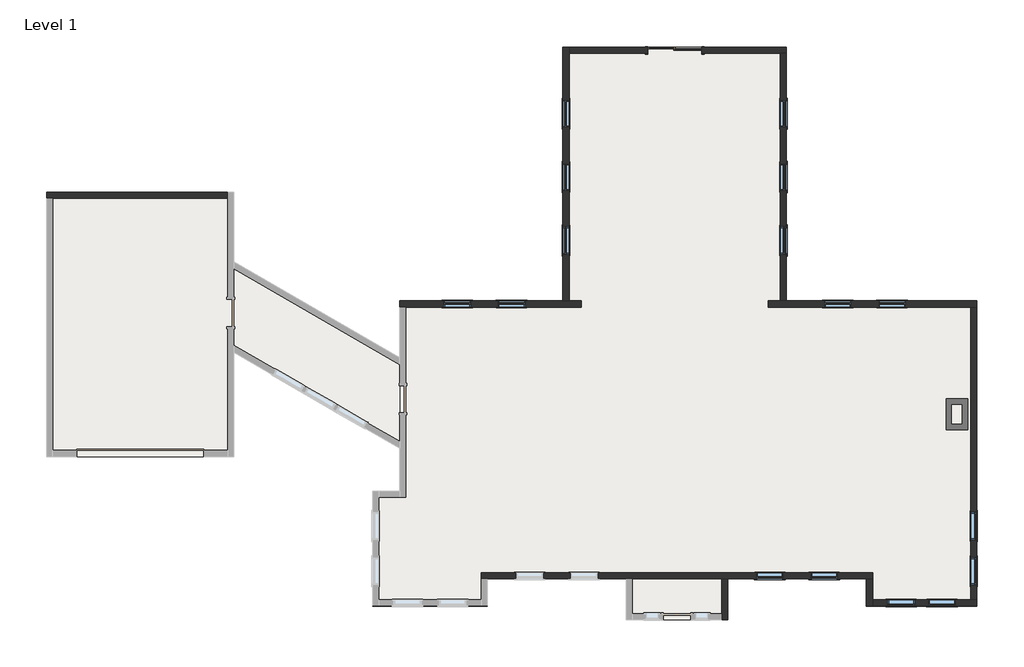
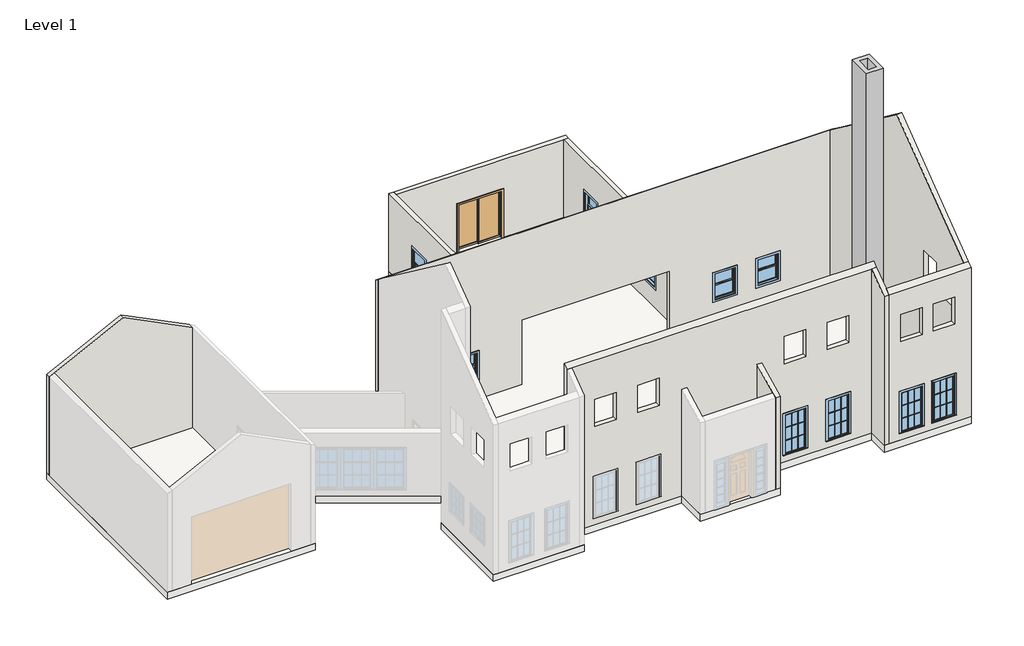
# One storey, part 2 of 2: 16 windows, 10 walls, 3 slabs, 1 door, 1 proxy.
"""IFC4 building model written with IfcOpenShell, lengths in millimetres."""

from ifc_helpers import new_model, si_unit, frame, origin, place, context, project, spatial, polyline, outline, extrude, faceted_brep, transform, mapped, element, save
from components import chimney_chimney_af68f421, door_f8fd2036, casement_3x3_with_trim_8b323df3, casement_3x3_with_trim_29c06734, double_hung_with_trim_31198920

model = new_model("IFC4")

# Units and contexts
model_context = context("Model", 3, world=origin())
ifc_project = project(units=[si_unit("LENGTHUNIT", "METRE", prefix="MILLI")], contexts=[model_context])

# Site, building, storey
site = spatial("IfcSite", under=ifc_project)
building = spatial("IfcBuilding", under=site)
storey = spatial("IfcBuildingStorey", under=building, Name="Level 1", Elevation=0.0)

# Proxy
placement = place(None, origin())
chimney_chimney_shape = chimney_chimney_af68f421(model_context)
element("IfcBuildingElementProxy", 1, Name="chimney : chimney", ObjectType="chimney : chimney", at=placement, inside=storey, context=model_context, shape_type="MappedRepresentation", body=[
    mapped(chimney_chimney_shape, transform((0.0, 0.0, 0.0), x_axis=(1.0, 0.0, 0.0), y_axis=(0.0, 1.0, 0.0), z_axis=(0.0, 0.0, 1.0))),
])

# Door
door_shape = door_f8fd2036(model_context)
element("IfcDoor", 2, ObjectType="Sliding-2 panel : 72\" x 84\"", at=placement, inside=storey, context=model_context, shape_type="MappedRepresentation", body=[
    mapped(door_shape, transform((-167241.7354666, 24535.2757393, 0.0), x_axis=(1.0, 0.0, 0.0), y_axis=(0.0, 1.0, 0.0), z_axis=(0.0, 0.0, 1.0))),
])

# Slabs
element("IfcSlab", 3, ObjectType="Generic - 12\"", at=placement, inside=storey, context=model_context, shape_type="SweptSolid", body=[
    extrude(outline(polyline([(-188374.5354666, 19887.0757393), (-182075.3354666, 19887.0757393), (-182075.3354666, 10997.0757393), (-188374.5354666, 10997.0757393), (-188374.5354666, 19887.0757393)])), frame((0.0, 0.0, -304.8), z_axis=(0.0, 0.0, 1.0), x_axis=(1.0, 0.0, 0.0)), (0.0, 0.0, 1.0), 304.8),
])
element("IfcSlab", 4, ObjectType="Generic - 12\"", at=placement, inside=storey, context=model_context, shape_type="SweptSolid", body=[
    extrude(outline(polyline([(-182075.3354666, 17548.8854056), (-176487.3354666, 14322.6521013), (-176487.3354666, 11272.3951592), (-182075.3354666, 14498.6284634), (-182075.3354666, 17548.8854056)])), frame((0.0, 0.0, -304.8), z_axis=(0.0, 0.0, 1.0), x_axis=(1.0, 0.0, 0.0)), (0.0, 0.0, 1.0), 304.8),
])
element("IfcSlab", 5, ObjectType="Generic - 12\"", at=placement, inside=storey, context=model_context, shape_type="SweptSolid", body=[
    extrude(outline(polyline([(-171000.9354666, 16229.4757393), (-171000.9354666, 24763.8757393), (-163482.5354666, 24763.8757393), (-163482.5354666, 16229.4757393), (-157081.7354666, 16229.4757393), (-157081.7354666, 5967.8757393), (-160790.1354666, 5967.8757393), (-160790.1354666, 6882.2757393), (-165463.7354666, 6882.2757393), (-165463.7354666, 5510.6757393), (-168867.3354666, 5510.6757393), (-168867.3354666, 6882.2757393), (-173540.9354666, 6882.2757393), (-173540.9354666, 5967.8757393), (-177401.7354666, 5967.8757393), (-177401.7354666, 9828.6757393), (-176487.3354666, 9828.6757393), (-176487.3354666, 16229.4757393), (-171000.9354666, 16229.4757393)])), frame((0.0, 0.0, -304.8), z_axis=(0.0, 0.0, 1.0), x_axis=(1.0, 0.0, 0.0)), (0.0, 0.0, 1.0), 304.8),
])

# Walls
element("IfcWall", 6, ObjectType="Generic - 8\"", at=placement, inside=storey, context=model_context, shape_type="Brep", body=[
    faceted_brep([(-176487.3354666, 16026.2757393, 0.0), (-176284.1354666, 16026.2757393, 0.0), (-170391.3354666, 16026.2757393, 0.0), (-170391.3354666, 16026.2757393, 2895.6), (-164092.1354666, 16026.2757393, 2895.6), (-164092.1354666, 16026.2757393, 0.0), (-157284.9354666, 16026.2757393, 0.0), (-157081.7354666, 16026.2757393, 0.0), (-157081.7354666, 16026.2757393, 6858.0), (-157284.9354666, 16026.2757393, 6858.0), (-176284.1354666, 16026.2757393, 6858.0), (-176487.3354666, 16026.2757393, 6858.0), (-159469.3354666, 16026.2757393, 2133.6), (-159469.3354666, 16026.2757393, 914.4), (-160383.7354666, 16026.2757393, 914.4), (-160383.7354666, 16026.2757393, 2133.6), (-161298.1354666, 16026.2757393, 2133.6), (-161298.1354666, 16026.2757393, 914.4), (-162212.5354666, 16026.2757393, 914.4), (-162212.5354666, 16026.2757393, 2133.6), (-172270.9354666, 16026.2757393, 2133.6), (-172270.9354666, 16026.2757393, 914.4), (-173185.3354666, 16026.2757393, 914.4), (-173185.3354666, 16026.2757393, 2133.6), (-174099.7354666, 16026.2757393, 2133.6), (-174099.7354666, 16026.2757393, 914.4), (-175014.1354666, 16026.2757393, 914.4), (-175014.1354666, 16026.2757393, 2133.6), (-176487.3354666, 16229.4757393, 0.0), (-176487.3354666, 16229.4757393, 6705.6), (-157081.7354666, 16229.4757393, 6705.6), (-157081.7354666, 16229.4757393, 0.0), (-163482.5354666, 16229.4757393, 0.0), (-163685.7354666, 16229.4757393, 0.0), (-164092.1354666, 16229.4757393, 0.0), (-164092.1354666, 16229.4757393, 2895.6), (-170391.3354666, 16229.4757393, 2895.6), (-170391.3354666, 16229.4757393, 0.0), (-170797.7354666, 16229.4757393, 0.0), (-171000.9354666, 16229.4757393, 0.0), (-159469.3354666, 16229.4757393, 2133.6), (-160383.7354666, 16229.4757393, 2133.6), (-160383.7354666, 16229.4757393, 914.4), (-159469.3354666, 16229.4757393, 914.4), (-161298.1354666, 16229.4757393, 2133.6), (-162212.5354666, 16229.4757393, 2133.6), (-162212.5354666, 16229.4757393, 914.4), (-161298.1354666, 16229.4757393, 914.4), (-172270.9354666, 16229.4757393, 2133.6), (-173185.3354666, 16229.4757393, 2133.6), (-173185.3354666, 16229.4757393, 914.4), (-172270.9354666, 16229.4757393, 914.4), (-174099.7354666, 16229.4757393, 2133.6), (-175014.1354666, 16229.4757393, 2133.6), (-175014.1354666, 16229.4757393, 914.4), (-174099.7354666, 16229.4757393, 914.4)], [[[0, 1, 2, 3, 4, 5, 6, 7, 8, 9, 10, 11], [12, 13, 14, 15], [16, 17, 18, 19], [20, 21, 22, 23], [24, 25, 26, 27]], [[28, 29, 30, 31, 32, 33, 34, 35, 36, 37, 38, 39], [40, 41, 42, 43], [44, 45, 46, 47], [48, 49, 50, 51], [52, 53, 54, 55]], [[2, 1, 0, 28, 39, 38, 37]], [[0, 11, 29, 28]], [[3, 2, 37, 36]], [[4, 3, 36, 35]], [[5, 4, 35, 34]], [[7, 6, 5, 34, 33, 32, 31]], [[8, 7, 31, 30]], [[11, 10, 9, 8, 30, 29]], [[13, 12, 40, 43]], [[14, 13, 43, 42]], [[15, 14, 42, 41]], [[12, 15, 41, 40]], [[17, 16, 44, 47]], [[18, 17, 47, 46]], [[19, 18, 46, 45]], [[16, 19, 45, 44]], [[21, 20, 48, 51]], [[22, 21, 51, 50]], [[23, 22, 50, 49]], [[20, 23, 49, 48]], [[25, 24, 52, 55]], [[26, 25, 55, 54]], [[27, 26, 54, 53]], [[24, 27, 53, 52]]]),
])
element("IfcWall", 7, ObjectType="Generic - 8\"", at=placement, inside=storey, context=model_context, shape_type="Brep", body=[
    faceted_brep([(-160586.9354666, 7085.4757393, 0.0), (-173744.1354666, 7085.4757393, 0.0), (-173744.1354666, 7085.4757393, 7543.8), (-160586.9354666, 7085.4757393, 7543.8), (-162669.7354666, 7085.4757393, 5638.8), (-162669.7354666, 7085.4757393, 4419.6), (-161755.3354666, 7085.4757393, 4419.6), (-161755.3354666, 7085.4757393, 5638.8), (-164498.5354666, 7085.4757393, 5638.8), (-164498.5354666, 7085.4757393, 4419.6), (-163584.1354666, 7085.4757393, 4419.6), (-163584.1354666, 7085.4757393, 5638.8), (-170746.9354666, 7085.4757393, 5638.8), (-170746.9354666, 7085.4757393, 4419.6), (-169832.5354666, 7085.4757393, 4419.6), (-169832.5354666, 7085.4757393, 5638.8), (-172575.7354666, 7085.4757393, 5638.8), (-172575.7354666, 7085.4757393, 4419.6), (-171661.3354666, 7085.4757393, 4419.6), (-171661.3354666, 7085.4757393, 5638.8), (-162669.7354666, 7085.4757393, 2133.6), (-162669.7354666, 7085.4757393, 304.8), (-161755.3354666, 7085.4757393, 304.8), (-161755.3354666, 7085.4757393, 2133.6), (-164498.5354666, 7085.4757393, 2133.6), (-164498.5354666, 7085.4757393, 304.8), (-163584.1354666, 7085.4757393, 304.8), (-163584.1354666, 7085.4757393, 2133.6), (-170746.9354666, 7085.4757393, 2133.6), (-170746.9354666, 7085.4757393, 304.8), (-169832.5354666, 7085.4757393, 304.8), (-169832.5354666, 7085.4757393, 2133.6), (-172575.7354666, 7085.4757393, 2133.6), (-172575.7354666, 7085.4757393, 304.8), (-171661.3354666, 7085.4757393, 304.8), (-171661.3354666, 7085.4757393, 2133.6), (-160586.9354666, 6882.2757393, 0.0), (-160586.9354666, 6882.2757393, 7391.4), (-160790.1354666, 6882.2757393, 7391.4), (-173540.9354666, 6882.2757393, 7391.4), (-173744.1354666, 6882.2757393, 7391.4), (-173744.1354666, 6882.2757393, 0.0), (-173540.9354666, 6882.2757393, 0.0), (-168867.3354666, 6882.2757393, 0.0), (-168664.1354666, 6882.2757393, 0.0), (-165666.9354666, 6882.2757393, 0.0), (-165463.7354666, 6882.2757393, 0.0), (-160790.1354666, 6882.2757393, 0.0), (-162669.7354666, 6882.2757393, 5638.8), (-161755.3354666, 6882.2757393, 5638.8), (-161755.3354666, 6882.2757393, 4419.6), (-162669.7354666, 6882.2757393, 4419.6), (-164498.5354666, 6882.2757393, 5638.8), (-163584.1354666, 6882.2757393, 5638.8), (-163584.1354666, 6882.2757393, 4419.6), (-164498.5354666, 6882.2757393, 4419.6), (-170746.9354666, 6882.2757393, 5638.8), (-169832.5354666, 6882.2757393, 5638.8), (-169832.5354666, 6882.2757393, 4419.6), (-170746.9354666, 6882.2757393, 4419.6), (-172575.7354666, 6882.2757393, 5638.8), (-171661.3354666, 6882.2757393, 5638.8), (-171661.3354666, 6882.2757393, 4419.6), (-172575.7354666, 6882.2757393, 4419.6), (-162669.7354666, 6882.2757393, 2133.6), (-161755.3354666, 6882.2757393, 2133.6), (-161755.3354666, 6882.2757393, 304.8), (-162669.7354666, 6882.2757393, 304.8), (-164498.5354666, 6882.2757393, 2133.6), (-163584.1354666, 6882.2757393, 2133.6), (-163584.1354666, 6882.2757393, 304.8), (-164498.5354666, 6882.2757393, 304.8), (-170746.9354666, 6882.2757393, 2133.6), (-169832.5354666, 6882.2757393, 2133.6), (-169832.5354666, 6882.2757393, 304.8), (-170746.9354666, 6882.2757393, 304.8), (-172575.7354666, 6882.2757393, 2133.6), (-171661.3354666, 6882.2757393, 2133.6), (-171661.3354666, 6882.2757393, 304.8), (-172575.7354666, 6882.2757393, 304.8)], [[[0, 1, 2, 3], [4, 5, 6, 7], [8, 9, 10, 11], [12, 13, 14, 15], [16, 17, 18, 19], [20, 21, 22, 23], [24, 25, 26, 27], [28, 29, 30, 31], [32, 33, 34, 35]], [[36, 37, 38, 39, 40, 41, 42, 43, 44, 45, 46, 47], [48, 49, 50, 51], [52, 53, 54, 55], [56, 57, 58, 59], [60, 61, 62, 63], [64, 65, 66, 67], [68, 69, 70, 71], [72, 73, 74, 75], [76, 77, 78, 79]], [[1, 0, 36, 47, 46, 45, 44, 43, 42, 41]], [[2, 1, 41, 40]], [[0, 3, 37, 36]], [[3, 2, 40, 39, 38, 37]], [[5, 4, 48, 51]], [[6, 5, 51, 50]], [[7, 6, 50, 49]], [[4, 7, 49, 48]], [[9, 8, 52, 55]], [[10, 9, 55, 54]], [[11, 10, 54, 53]], [[8, 11, 53, 52]], [[13, 12, 56, 59]], [[14, 13, 59, 58]], [[15, 14, 58, 57]], [[12, 15, 57, 56]], [[17, 16, 60, 63]], [[18, 17, 63, 62]], [[19, 18, 62, 61]], [[16, 19, 61, 60]], [[21, 20, 64, 67]], [[22, 21, 67, 66]], [[23, 22, 66, 65]], [[20, 23, 65, 64]], [[25, 24, 68, 71]], [[26, 25, 71, 70]], [[27, 26, 70, 69]], [[24, 27, 69, 68]], [[29, 28, 72, 75]], [[30, 29, 75, 74]], [[31, 30, 74, 73]], [[28, 31, 73, 72]], [[33, 32, 76, 79]], [[34, 33, 79, 78]], [[35, 34, 78, 77]], [[32, 35, 77, 76]]]),
])
element("IfcWall", 8, ObjectType="Generic - 8\"", at=placement, inside=storey, context=model_context, shape_type="SweptSolid", body=[
    extrude(outline(polyline([(16026.2757393, 0.0), (6171.0757393, 0.0), (6171.0757393, 6858.0), (11098.6757393, 10553.7), (16026.2757393, 6858.0), (16026.2757393, 0.0)]), holes=[polyline([(8203.0757393, 2133.6), (8203.0757393, 914.4), (9117.4757393, 914.4), (9117.4757393, 2133.6), (8203.0757393, 2133.6)]), polyline([(6679.0757393, 2133.6), (6679.0757393, 914.4), (7593.4757393, 914.4), (7593.4757393, 2133.6), (6679.0757393, 2133.6)]), polyline([(8203.0757393, 5638.8), (8203.0757393, 4419.6), (9117.4757393, 4419.6), (9117.4757393, 5638.8), (8203.0757393, 5638.8)]), polyline([(6679.0757393, 5638.8), (6679.0757393, 4419.6), (7593.4757393, 4419.6), (7593.4757393, 5638.8), (6679.0757393, 5638.8)])]), frame((-157284.9354666, 0.0, 0.0), z_axis=(1.0, 0.0, 0.0), x_axis=(0.0, 1.0, 0.0)), (0.0, 0.0, 1.0), 203.2),
])
element("IfcWall", 9, ObjectType="Generic - 8\"", at=placement, inside=storey, context=model_context, shape_type="Brep", body=[
    faceted_brep([(-160790.1354666, 6882.2757393, 0.0), (-160790.1354666, 5967.8757393, 0.0), (-160790.1354666, 5967.8757393, 6705.6), (-160790.1354666, 6882.2757393, 7391.4), (-160586.9354666, 6882.2757393, 0.0), (-160586.9354666, 6882.2757393, 7391.4), (-160586.9354666, 6171.0757393, 6858.0), (-160586.9354666, 5967.8757393, 6705.6), (-160586.9354666, 5967.8757393, 0.0), (-160586.9354666, 6171.0757393, 0.0)], [[[0, 1, 2, 3]], [[4, 5, 6, 7, 8, 9]], [[1, 0, 4, 9, 8]], [[2, 1, 8, 7]], [[0, 3, 5, 4]], [[3, 2, 7, 6, 5]]]),
])
element("IfcWall", 10, ObjectType="Generic - 8\"", at=placement, inside=storey, context=model_context, shape_type="Brep", body=[
    faceted_brep([(-160586.9354666, 5967.8757393, 0.0), (-157081.7354666, 5967.8757393, 0.0), (-157081.7354666, 5967.8757393, 6705.6), (-160586.9354666, 5967.8757393, 6705.6), (-158707.3354666, 5967.8757393, 5638.8), (-157792.9354666, 5967.8757393, 5638.8), (-157792.9354666, 5967.8757393, 4419.6), (-158707.3354666, 5967.8757393, 4419.6), (-160078.9354666, 5967.8757393, 5638.8), (-159164.5354666, 5967.8757393, 5638.8), (-159164.5354666, 5967.8757393, 4419.6), (-160078.9354666, 5967.8757393, 4419.6), (-158707.3354666, 5967.8757393, 2133.6), (-157792.9354666, 5967.8757393, 2133.6), (-157792.9354666, 5967.8757393, 304.8), (-158707.3354666, 5967.8757393, 304.8), (-160078.9354666, 5967.8757393, 2133.6), (-159164.5354666, 5967.8757393, 2133.6), (-159164.5354666, 5967.8757393, 304.8), (-160078.9354666, 5967.8757393, 304.8), (-160586.9354666, 6171.0757393, 0.0), (-160586.9354666, 6171.0757393, 6858.0), (-157284.9354666, 6171.0757393, 6858.0), (-157081.7354666, 6171.0757393, 6858.0), (-157081.7354666, 6171.0757393, 0.0), (-157284.9354666, 6171.0757393, 0.0), (-158707.3354666, 6171.0757393, 5638.8), (-158707.3354666, 6171.0757393, 4419.6), (-157792.9354666, 6171.0757393, 4419.6), (-157792.9354666, 6171.0757393, 5638.8), (-160078.9354666, 6171.0757393, 5638.8), (-160078.9354666, 6171.0757393, 4419.6), (-159164.5354666, 6171.0757393, 4419.6), (-159164.5354666, 6171.0757393, 5638.8), (-158707.3354666, 6171.0757393, 2133.6), (-158707.3354666, 6171.0757393, 304.8), (-157792.9354666, 6171.0757393, 304.8), (-157792.9354666, 6171.0757393, 2133.6), (-160078.9354666, 6171.0757393, 2133.6), (-160078.9354666, 6171.0757393, 304.8), (-159164.5354666, 6171.0757393, 304.8), (-159164.5354666, 6171.0757393, 2133.6)], [[[0, 1, 2, 3], [4, 5, 6, 7], [8, 9, 10, 11], [12, 13, 14, 15], [16, 17, 18, 19]], [[20, 21, 22, 23, 24, 25], [26, 27, 28, 29], [30, 31, 32, 33], [34, 35, 36, 37], [38, 39, 40, 41]], [[1, 0, 20, 25, 24]], [[0, 3, 21, 20]], [[2, 1, 24, 23]], [[3, 2, 23, 22, 21]], [[27, 26, 4, 7]], [[28, 27, 7, 6]], [[29, 28, 6, 5]], [[26, 29, 5, 4]], [[31, 30, 8, 11]], [[32, 31, 11, 10]], [[33, 32, 10, 9]], [[30, 33, 9, 8]], [[35, 34, 12, 15]], [[36, 35, 15, 14]], [[37, 36, 14, 13]], [[34, 37, 13, 12]], [[39, 38, 16, 19]], [[40, 39, 19, 18]], [[41, 40, 18, 17]], [[38, 41, 17, 16]]]),
])
element("IfcWall", 11, ObjectType="Generic - 8\"", at=placement, inside=storey, context=model_context, shape_type="Brep", body=[
    faceted_brep([(-165666.9354666, 6882.2757393, 0.0), (-165666.9354666, 5713.8757393, 0.0), (-165666.9354666, 5510.6757393, 0.0), (-165666.9354666, 5510.6757393, 4114.8), (-165666.9354666, 5713.8757393, 4216.4), (-165666.9354666, 6882.2757393, 4800.6), (-165463.7354666, 6882.2757393, 0.0), (-165463.7354666, 6882.2757393, 4800.6), (-165463.7354666, 5510.6757393, 4114.8), (-165463.7354666, 5510.6757393, 0.0)], [[[0, 1, 2, 3, 4, 5]], [[6, 7, 8, 9]], [[2, 1, 0, 6, 9]], [[3, 2, 9, 8]], [[0, 5, 7, 6]], [[5, 4, 3, 8, 7]]]),
])
element("IfcWall", 12, ObjectType="Generic - 8\"", at=placement, inside=storey, context=model_context, shape_type="Brep", body=[
    faceted_brep([(-170797.7354666, 16229.4757393, 3505.2), (-170797.7354666, 24560.6757393, 3505.2), (-170797.7354666, 24763.8757393, 3505.2), (-171000.9354666, 24763.8757393, 3505.2), (-171000.9354666, 16229.4757393, 3505.2), (-170797.7354666, 16229.4757393, 0.0), (-170797.7354666, 24560.6757393, 0.0), (-170797.7354666, 24763.8757393, 0.0), (-170797.7354666, 22985.8757393, 2133.6), (-170797.7354666, 22985.8757393, 914.4), (-170797.7354666, 22071.4757393, 914.4), (-170797.7354666, 22071.4757393, 2133.6), (-170797.7354666, 20852.2757393, 2133.6), (-170797.7354666, 20852.2757393, 914.4), (-170797.7354666, 19937.8757393, 914.4), (-170797.7354666, 19937.8757393, 2133.6), (-170797.7354666, 18718.6757393, 2133.6), (-170797.7354666, 18718.6757393, 914.4), (-170797.7354666, 17804.2757393, 914.4), (-170797.7354666, 17804.2757393, 2133.6), (-171000.9354666, 16229.4757393, 0.0), (-171000.9354666, 24763.8757393, 0.0), (-171000.9354666, 22985.8757393, 2133.6), (-171000.9354666, 22071.4757393, 2133.6), (-171000.9354666, 22071.4757393, 914.4), (-171000.9354666, 22985.8757393, 914.4), (-171000.9354666, 20852.2757393, 2133.6), (-171000.9354666, 19937.8757393, 2133.6), (-171000.9354666, 19937.8757393, 914.4), (-171000.9354666, 20852.2757393, 914.4), (-171000.9354666, 18718.6757393, 2133.6), (-171000.9354666, 17804.2757393, 2133.6), (-171000.9354666, 17804.2757393, 914.4), (-171000.9354666, 18718.6757393, 914.4)], [[[0, 1, 2, 3, 4]], [[5, 6, 7, 2, 1, 0], [8, 9, 10, 11], [12, 13, 14, 15], [16, 17, 18, 19]], [[20, 4, 3, 21], [22, 23, 24, 25], [26, 27, 28, 29], [30, 31, 32, 33]], [[7, 6, 5, 20, 21]], [[5, 0, 4, 20]], [[2, 7, 21, 3]], [[9, 8, 22, 25]], [[10, 9, 25, 24]], [[11, 10, 24, 23]], [[8, 11, 23, 22]], [[13, 12, 26, 29]], [[14, 13, 29, 28]], [[15, 14, 28, 27]], [[12, 15, 27, 26]], [[17, 16, 30, 33]], [[18, 17, 33, 32]], [[19, 18, 32, 31]], [[16, 19, 31, 30]]]),
])
element("IfcWall", 13, ObjectType="Generic - 8\"", at=placement, inside=storey, context=model_context, shape_type="Brep", body=[
    faceted_brep([(-170797.7354666, 24560.6757393, 3505.2), (-163685.7354666, 24560.6757393, 3505.2), (-163482.5354666, 24560.6757393, 3505.2), (-163482.5354666, 24763.8757393, 3505.2), (-170797.7354666, 24763.8757393, 3505.2), (-166327.3354666, 24560.6757393, 2133.6), (-166327.3354666, 24560.6757393, 0.0), (-163685.7354666, 24560.6757393, 0.0), (-163482.5354666, 24560.6757393, 0.0), (-170797.7354666, 24560.6757393, 0.0), (-168156.1354666, 24560.6757393, 0.0), (-168156.1354666, 24560.6757393, 2133.6), (-163482.5354666, 24763.8757393, 0.0), (-166327.3354666, 24763.8757393, 0.0), (-166327.3354666, 24763.8757393, 2133.6), (-168156.1354666, 24763.8757393, 2133.6), (-168156.1354666, 24763.8757393, 0.0), (-170797.7354666, 24763.8757393, 0.0)], [[[0, 1, 2, 3, 4]], [[5, 6, 7, 8, 2, 1, 0, 9, 10, 11]], [[12, 13, 14, 15, 16, 17, 4, 3]], [[8, 7, 6, 13, 12]], [[10, 9, 17, 16]], [[9, 0, 4, 17]], [[2, 8, 12, 3]], [[16, 15, 11, 10]], [[14, 13, 6, 5]], [[15, 14, 5, 11]]]),
])
element("IfcWall", 14, ObjectType="Generic - 8\"", at=placement, inside=storey, context=model_context, shape_type="SweptSolid", body=[
    extrude(outline(polyline([(16229.4757393, 0.0), (16229.4757393, 3505.2), (24560.6757393, 3505.2), (24560.6757393, 0.0), (16229.4757393, 0.0)]), holes=[polyline([(17804.2757393, 2133.6), (17804.2757393, 914.4), (18718.6757393, 914.4), (18718.6757393, 2133.6), (17804.2757393, 2133.6)]), polyline([(19937.8757393, 2133.6), (19937.8757393, 914.4), (20852.2757393, 914.4), (20852.2757393, 2133.6), (19937.8757393, 2133.6)]), polyline([(22071.4757393, 2133.6), (22071.4757393, 914.4), (22985.8757393, 914.4), (22985.8757393, 2133.6), (22071.4757393, 2133.6)])]), frame((-163685.7354666, 0.0, 0.0), z_axis=(1.0, 0.0, 0.0), x_axis=(0.0, 1.0, 0.0)), (0.0, 0.0, 1.0), 203.2),
])
element("IfcWall", 15, ObjectType="Generic - 8\"", at=placement, inside=storey, context=model_context, shape_type="Brep", body=[
    faceted_brep([(-188374.5354666, 19683.8757393, 0.0), (-188171.3354666, 19683.8757393, 0.0), (-182278.5354666, 19683.8757393, 0.0), (-182278.5354666, 19683.8757393, 4521.2), (-185224.9354666, 19683.8757393, 5994.4), (-188171.3354666, 19683.8757393, 4521.2), (-188374.5354666, 19683.8757393, 4419.6), (-188374.5354666, 19887.0757393, 0.0), (-188374.5354666, 19887.0757393, 4419.6), (-185224.9354666, 19887.0757393, 5994.4), (-182278.5354666, 19887.0757393, 4521.2), (-182278.5354666, 19887.0757393, 0.0)], [[[0, 1, 2, 3, 4, 5, 6]], [[7, 8, 9, 10, 11]], [[2, 1, 0, 7, 11]], [[0, 6, 8, 7]], [[3, 2, 11, 10]], [[6, 5, 4, 9, 8]], [[4, 3, 10, 9]]]),
])

# Windows
casement_3x3_with_trim_shape = casement_3x3_with_trim_8b323df3(model_context)
element("IfcWindow", 16, ObjectType="Casement 3x3 with Trim : 36\"w x 72\"h", at=placement, inside=storey, context=model_context, shape_type="MappedRepresentation", body=[
    mapped(casement_3x3_with_trim_shape, transform((-159621.7354666, 6069.4757393, 0.0), x_axis=(-1.0, 0.0, 0.0), y_axis=(0.0, -1.0, 0.0), z_axis=(0.0, 0.0, 1.0))),
])
element("IfcWindow", 17, ObjectType="Casement 3x3 with Trim : 36\"w x 72\"h", at=placement, inside=storey, context=model_context, shape_type="MappedRepresentation", body=[
    mapped(casement_3x3_with_trim_shape, transform((-158250.1354666, 6069.4757393, 0.0), x_axis=(-1.0, 0.0, 0.0), y_axis=(0.0, -1.0, 0.0), z_axis=(0.0, 0.0, 1.0))),
])
element("IfcWindow", 18, ObjectType="Casement 3x3 with Trim : 36\"w x 72\"h", at=placement, inside=storey, context=model_context, shape_type="MappedRepresentation", body=[
    mapped(casement_3x3_with_trim_shape, transform((-164041.3354666, 6983.8757393, 0.0), x_axis=(-1.0, 0.0, 0.0), y_axis=(0.0, -1.0, 0.0), z_axis=(0.0, 0.0, 1.0))),
])
element("IfcWindow", 19, ObjectType="Casement 3x3 with Trim : 36\"w x 72\"h", at=placement, inside=storey, context=model_context, shape_type="MappedRepresentation", body=[
    mapped(casement_3x3_with_trim_shape, transform((-162212.5354666, 6983.8757393, 0.0), x_axis=(-1.0, 0.0, 0.0), y_axis=(0.0, -1.0, 0.0), z_axis=(0.0, 0.0, 1.0))),
])
casement_3x3_with_trim_2_shape = casement_3x3_with_trim_29c06734(model_context)
element("IfcWindow", 20, ObjectType="Casement 3x3 with Trim : 36\"w x 48\"h", at=placement, inside=storey, context=model_context, shape_type="MappedRepresentation", body=[
    mapped(casement_3x3_with_trim_2_shape, transform((-157183.3354666, 7136.2757393, 0.0), x_axis=(0.0, -1.0, 0.0), y_axis=(1.0, 0.0, 0.0), z_axis=(0.0, 0.0, 1.0))),
])
element("IfcWindow", 21, ObjectType="Casement 3x3 with Trim : 36\"w x 48\"h", at=placement, inside=storey, context=model_context, shape_type="MappedRepresentation", body=[
    mapped(casement_3x3_with_trim_2_shape, transform((-157183.3354666, 8660.2757393, 0.0), x_axis=(0.0, -1.0, 0.0), y_axis=(1.0, 0.0, 0.0), z_axis=(0.0, 0.0, 1.0))),
])
double_hung_with_trim_shape = double_hung_with_trim_31198920(model_context)
element("IfcWindow", 22, ObjectType="Double Hung with Trim : 36\"w x 48\"h", at=placement, inside=storey, context=model_context, shape_type="MappedRepresentation", body=[
    mapped(double_hung_with_trim_shape, transform((-174556.9354666, 16127.8757393, 0.0), x_axis=(1.0, 0.0, 0.0), y_axis=(0.0, 1.0, 0.0), z_axis=(0.0, 0.0, 1.0))),
])
element("IfcWindow", 23, ObjectType="Double Hung with Trim : 36\"w x 48\"h", at=placement, inside=storey, context=model_context, shape_type="MappedRepresentation", body=[
    mapped(double_hung_with_trim_shape, transform((-172728.1354666, 16127.8757393, 0.0), x_axis=(1.0, 0.0, 0.0), y_axis=(0.0, 1.0, 0.0), z_axis=(0.0, 0.0, 1.0))),
])
element("IfcWindow", 24, ObjectType="Double Hung with Trim : 36\"w x 48\"h", at=placement, inside=storey, context=model_context, shape_type="MappedRepresentation", body=[
    mapped(double_hung_with_trim_shape, transform((-161755.3354666, 16127.8757393, 0.0), x_axis=(1.0, 0.0, 0.0), y_axis=(0.0, 1.0, 0.0), z_axis=(0.0, 0.0, 1.0))),
])
element("IfcWindow", 25, ObjectType="Double Hung with Trim : 36\"w x 48\"h", at=placement, inside=storey, context=model_context, shape_type="MappedRepresentation", body=[
    mapped(double_hung_with_trim_shape, transform((-159926.5354666, 16127.8757393, 0.0), x_axis=(1.0, 0.0, 0.0), y_axis=(0.0, 1.0, 0.0), z_axis=(0.0, 0.0, 1.0))),
])
element("IfcWindow", 26, ObjectType="Double Hung with Trim : 36\"w x 48\"h", at=placement, inside=storey, context=model_context, shape_type="MappedRepresentation", body=[
    mapped(double_hung_with_trim_shape, transform((-170899.3354666, 18261.4757393, 0.0), x_axis=(0.0, 1.0, 0.0), y_axis=(-1.0, 0.0, 0.0), z_axis=(0.0, 0.0, 1.0))),
])
element("IfcWindow", 27, ObjectType="Double Hung with Trim : 36\"w x 48\"h", at=placement, inside=storey, context=model_context, shape_type="MappedRepresentation", body=[
    mapped(double_hung_with_trim_shape, transform((-170899.3354666, 20395.0757393, 0.0), x_axis=(0.0, 1.0, 0.0), y_axis=(-1.0, 0.0, 0.0), z_axis=(0.0, 0.0, 1.0))),
])
element("IfcWindow", 28, ObjectType="Double Hung with Trim : 36\"w x 48\"h", at=placement, inside=storey, context=model_context, shape_type="MappedRepresentation", body=[
    mapped(double_hung_with_trim_shape, transform((-170899.3354666, 22528.6757393, 0.0), x_axis=(0.0, 1.0, 0.0), y_axis=(-1.0, 0.0, 0.0), z_axis=(0.0, 0.0, 1.0))),
])
element("IfcWindow", 29, ObjectType="Double Hung with Trim : 36\"w x 48\"h", at=placement, inside=storey, context=model_context, shape_type="MappedRepresentation", body=[
    mapped(double_hung_with_trim_shape, transform((-163584.1354666, 22528.6757393, 0.0), x_axis=(0.0, -1.0, 0.0), y_axis=(1.0, 0.0, 0.0), z_axis=(0.0, 0.0, 1.0))),
])
element("IfcWindow", 30, ObjectType="Double Hung with Trim : 36\"w x 48\"h", at=placement, inside=storey, context=model_context, shape_type="MappedRepresentation", body=[
    mapped(double_hung_with_trim_shape, transform((-163584.1354666, 20395.0757393, 0.0), x_axis=(0.0, -1.0, 0.0), y_axis=(1.0, 0.0, 0.0), z_axis=(0.0, 0.0, 1.0))),
])
element("IfcWindow", 31, ObjectType="Double Hung with Trim : 36\"w x 48\"h", at=placement, inside=storey, context=model_context, shape_type="MappedRepresentation", body=[
    mapped(double_hung_with_trim_shape, transform((-163584.1354666, 18261.4757393, 0.0), x_axis=(0.0, -1.0, 0.0), y_axis=(1.0, 0.0, 0.0), z_axis=(0.0, 0.0, 1.0))),
])

save(model, "model.ifc")
